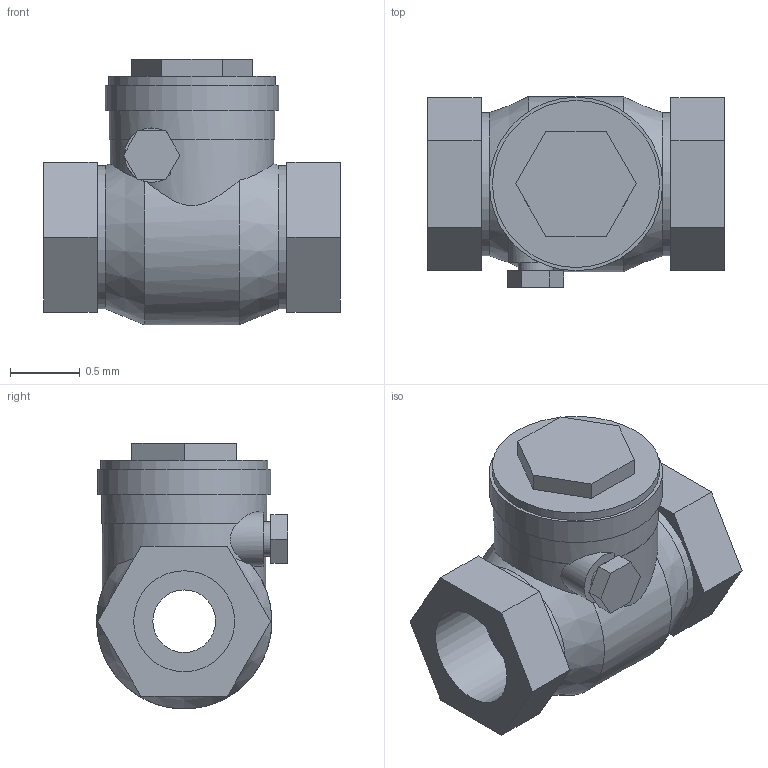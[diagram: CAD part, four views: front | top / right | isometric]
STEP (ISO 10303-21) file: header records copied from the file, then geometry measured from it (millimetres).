
FILE_DESCRIPTION(('Open CASCADE Model'),'2;1');
FILE_NAME('Open CASCADE Shape Model','2022-04-26T12:07:09',('Author'),( 'Open CASCADE'),'Open CASCADE STEP processor 7.3','Open CASCADE 7.3' ,'Unknown');
FILE_SCHEMA(('AUTOMOTIVE_DESIGN { 1 0 10303 214 1 1 1 1 }'));
Length unit declared in the file: millimetre
Products named in the file (1): Open CASCADE STEP translator 7.3 1
Bounding box: 2.13 x 1.37 x 1.91 mm (x, y, z)
Volume: 2.5 mm3; surface area: 17.6 mm2
Topology: 1 solids, 1 shells, 52 faces, 123 edges, 82 vertices
Faces by surface type: plane 38, cylinder 12, cone 2
Full cylindrical faces by diameter (mm): 0.25 x1, 0.45 x1, 0.725 x2, 1.028 x2, 1.188 x1, 1.2 x1, 1.245 x1
Entity records: 3946 total; most frequent: CARTESIAN_POINT 1457, DIRECTION 448, LINE 281, VECTOR 281, ORIENTED_EDGE 246, PCURVE 246, DEFINITIONAL_REPRESENTATION 246, EDGE_CURVE 123
